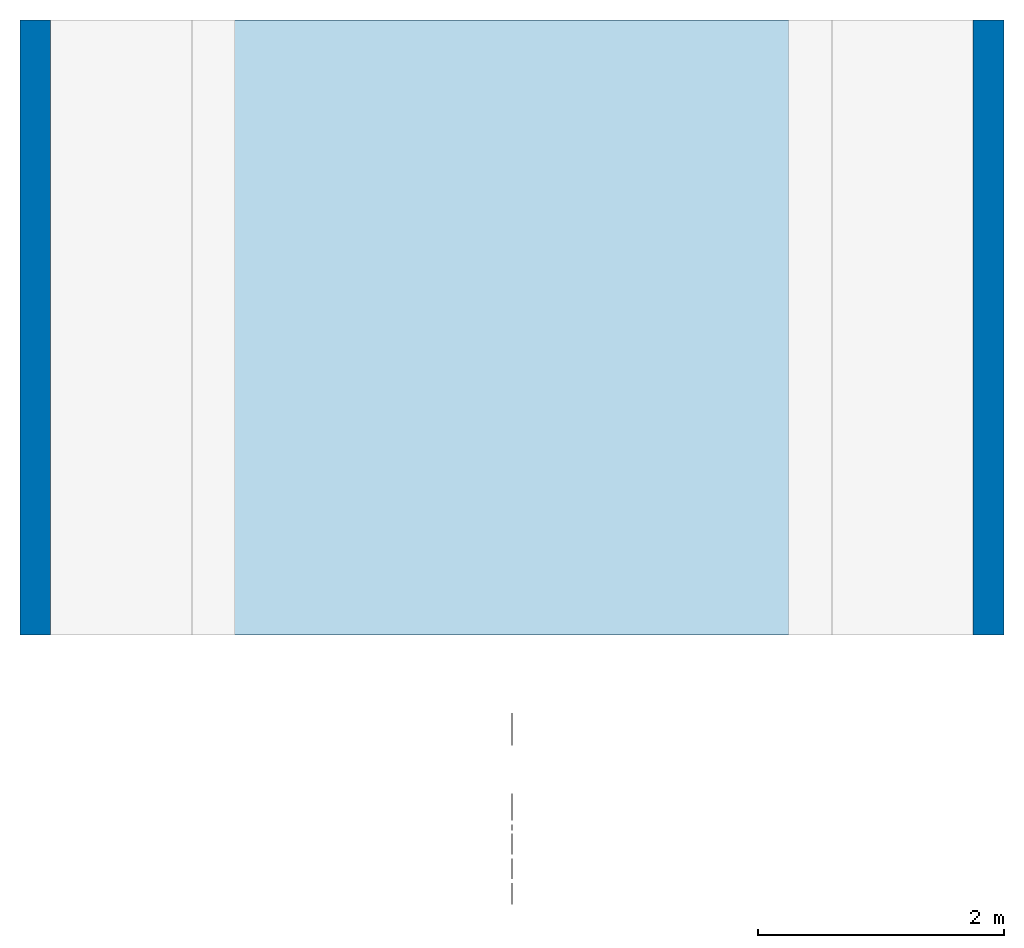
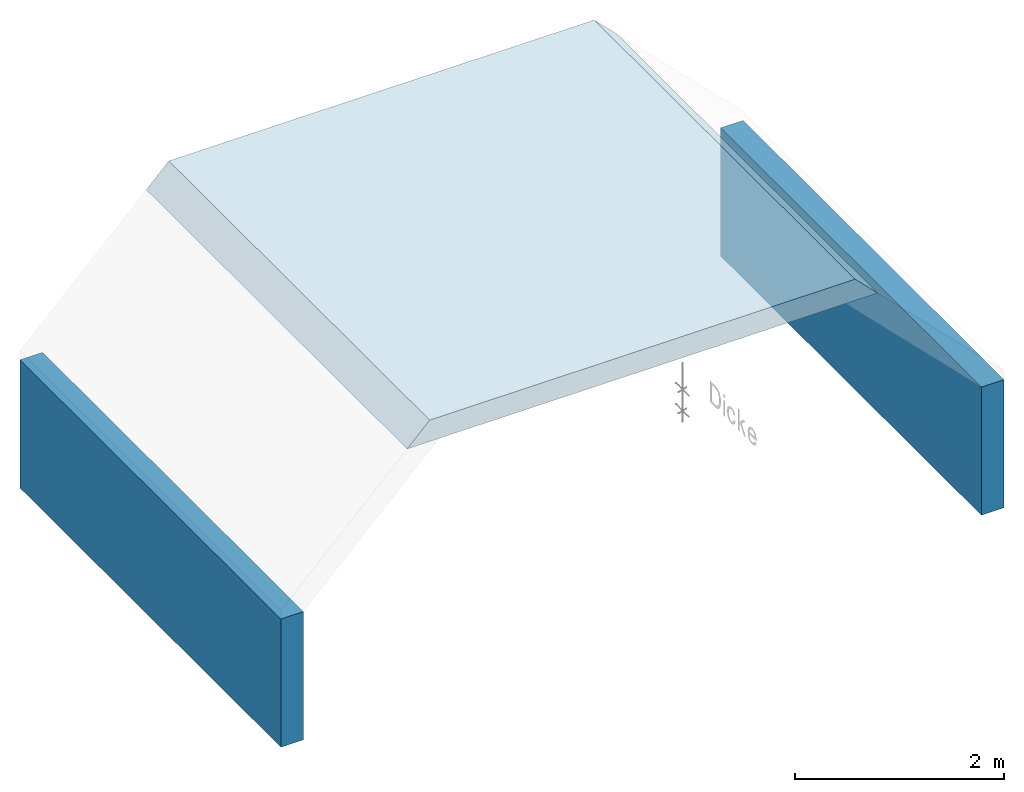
# One storey, part 1 of 3: 2 walls, 1 slab, 2 elements without a shape of their own.
"""IFC4 building model written with IfcOpenShell, lengths in metres."""

from ifc_helpers import new_model, entity, si_unit, converted_unit, derived_unit, frame, frame_2d, origin, origin_with_axes, place, context, subcontext, project, spatial, rectangle, extrude, faceted_brep, material, element, aggregate, save


model = new_model("IFC4")

# Units and contexts
model_context = context("Model", 3, precision=1e-05, world=origin())
body_context = subcontext(model_context, "Body", "Model", "MODEL_VIEW")
ifc_project = project(units=[si_unit("LENGTHUNIT", "METRE"), si_unit("AREAUNIT", "SQUARE_METRE"), si_unit("VOLUMEUNIT", "CUBIC_METRE"), si_unit("MASSUNIT", "GRAM", prefix="KILO"), converted_unit("PLANEANGLEUNIT", "DEGREE", entity("IfcPlaneAngleMeasure", 0.0174532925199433), si_unit("PLANEANGLEUNIT", "RADIAN"), dimensions=[0, 0, 0, 0, 0, 0, 0]), derived_unit("THERMALTRANSMITTANCEUNIT", [(si_unit("POWERUNIT", "WATT"), 1), (si_unit("THERMODYNAMICTEMPERATUREUNIT", "KELVIN"), -1), (si_unit("LENGTHUNIT", "METRE"), -2)]), derived_unit("VOLUMETRICFLOWRATEUNIT", [(si_unit("LENGTHUNIT", "METRE"), 3), (converted_unit("TIMEUNIT", "hour", entity("IfcTimeMeasure", 3600.0), si_unit("TIMEUNIT", "SECOND"), dimensions=[0, 0, 1, 0, 0, 0, 0]), -1), (si_unit("LENGTHUNIT", "METRE"), -1)])], contexts=[model_context])

# Site, building, storey
site_placement = place(None, origin())
site = spatial("IfcSite", under=ifc_project, at=site_placement, Name="Liegenschaft", CompositionType="ELEMENT")
building_placement = place(site_placement, origin())
building = spatial("IfcBuilding", under=site, at=building_placement, Name="Gebäude", CompositionType="ELEMENT")
storey_placement = place(building_placement, origin())
storey = spatial("IfcBuildingStorey", under=building, at=storey_placement, Name="Geschoss 01", CompositionType="ELEMENT", Elevation=0.0)

# Slab
slab_placement = place(storey_placement, frame((139.065985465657, -2.73332187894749, 3.0)))
element("IfcSlab", 1, at=slab_placement, inside=storey, PredefinedType="NOTDEFINED", context=body_context, shape_type="Brep", body=[
    faceted_brep([(0.25, 0.0, 0.25), (0.25, 5.0, 0.25), (4.95710678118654, 5.0, 0.25), (4.95710678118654, 0.0, 0.25), (5.20710678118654, 5.0, 0.0), (5.20710678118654, 0.0, 0.0), (0.0, 5.0, 0.0), (0.0, 0.0, 0.0)], [[[0, 1, 2, 3]], [[3, 2, 4, 5]], [[4, 6, 7, 5]], [[6, 1, 0, 7]], [[0, 3, 5, 7]], [[1, 6, 4, 2]]], orient=[[False], [False], [False], [False], [False], [False]]),
])

# Assembly, wall
assembly_1_placement = place(storey_placement, origin())
assembly_1 = element("IfcElementAssembly", 2, at=assembly_1_placement, inside=storey, Name="WA_01", PredefinedType="NOTDEFINED")
ifc_material_1 = material(Name="C20/25")
wall_1_placement = place(storey_placement, frame((145.66953885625, -2.73332187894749, 0.0), z_axis=(0.0, 0.0, 1.0), x_axis=(0.0, 1.0, 0.0)))
wall_1 = element("IfcWall", 3, at=wall_1_placement, material=ifc_material_1, Name="WA_01", context=body_context, shape_type="SweptSolid", body=[
    extrude(rectangle(XDim=5.0, YDim=0.25, at=frame_2d((2.5, 0.125), x_axis=(1.0, 0.0))), origin_with_axes(), (0.0, 0.0, 1.0), 1.5),
])
aggregate(assembly_1, [wall_1])

assembly_2_placement = place(storey_placement, origin())
assembly_2 = element("IfcElementAssembly", 4, at=assembly_2_placement, inside=storey, Name="WA_01", PredefinedType="NOTDEFINED")
ifc_material_2 = material(Name="C20/25")
wall_2_placement = place(storey_placement, frame((137.66953885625, 2.26667812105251, 0.0), z_axis=(0.0, 0.0, 1.0), x_axis=(0.0, -1.0, 0.0)))
wall_2 = element("IfcWall", 5, at=wall_2_placement, material=ifc_material_2, Name="WA_01", context=body_context, shape_type="SweptSolid", body=[
    extrude(rectangle(XDim=5.0, YDim=0.25, at=frame_2d((2.5, 0.125), x_axis=(1.0, 0.0))), origin_with_axes(), (0.0, 0.0, 1.0), 1.5),
])
aggregate(assembly_2, [wall_2])

save(model, "model.ifc")
